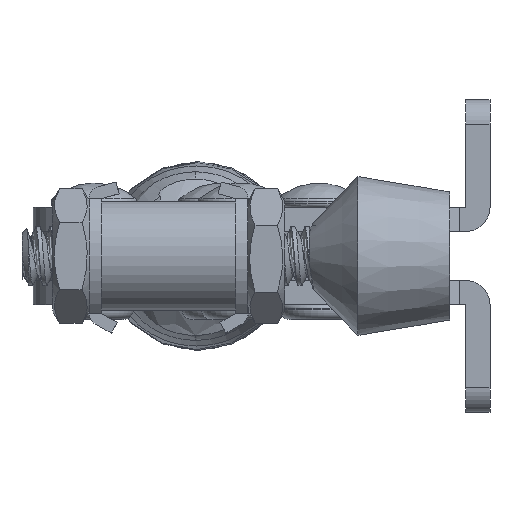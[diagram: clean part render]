
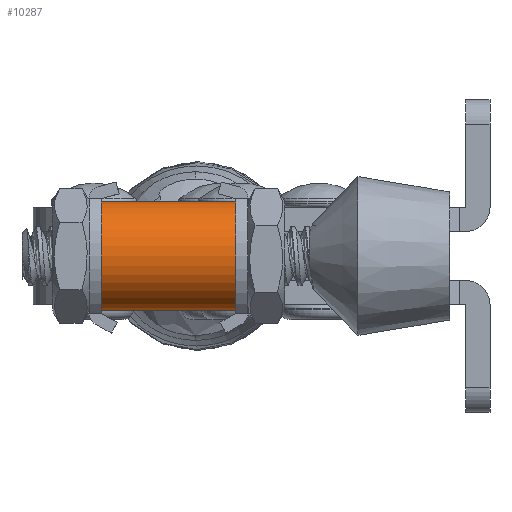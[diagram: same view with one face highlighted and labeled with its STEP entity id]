
A CAD part, left-side view. The second image highlights one B-rep face of the part: STEP entity #10287.
In plain terms, the highlighted cylindrical face has radius 4.5 mm (diameter 9 mm), a partial arc.
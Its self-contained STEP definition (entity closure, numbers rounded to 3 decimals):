
#1567=FACE_OUTER_BOUND('',#2155,.T.);
#2155=EDGE_LOOP('',(#9260,#9261,#9262,#9263));
#2941=LINE('',#33781,#3746);
#2944=LINE('',#33787,#3749);
#3746=VECTOR('',#12783,1000.);
#3749=VECTOR('',#12788,1000.);
#4026=CIRCLE('',#11012,4.5);
#4027=CIRCLE('',#11013,4.5);
#5011=VERTEX_POINT('',#33779);
#5012=VERTEX_POINT('',#33780);
#5013=VERTEX_POINT('',#33785);
#5014=VERTEX_POINT('',#33786);
#6477=EDGE_CURVE('',#5011,#5012,#2941,.T.);
#6480=EDGE_CURVE('',#5013,#5014,#2944,.T.);
#6481=EDGE_CURVE('',#5011,#5014,#4026,.T.);
#6482=EDGE_CURVE('',#5013,#5012,#4027,.T.);
#9260=ORIENTED_EDGE('',*,*,#6480,.T.);
#9261=ORIENTED_EDGE('',*,*,#6481,.F.);
#9262=ORIENTED_EDGE('',*,*,#6477,.T.);
#9263=ORIENTED_EDGE('',*,*,#6482,.F.);
#9792=CYLINDRICAL_SURFACE('',#11011,4.5);
#10287=ADVANCED_FACE('',(#1567),#9792,.T.);
#11011=AXIS2_PLACEMENT_3D('',#33784,#12786,#12787);
#11012=AXIS2_PLACEMENT_3D('',#33788,#12789,#12790);
#11013=AXIS2_PLACEMENT_3D('',#33789,#12791,#12792);
#12783=DIRECTION('',(0.,-1.,0.));
#12786=DIRECTION('center_axis',(0.,-1.,0.));
#12787=DIRECTION('ref_axis',(0.,0.,-1.));
#12788=DIRECTION('',(0.,1.,0.));
#12789=DIRECTION('center_axis',(0.,1.,0.));
#12790=DIRECTION('ref_axis',(0.,0.,-1.));
#12791=DIRECTION('center_axis',(0.,-1.,0.));
#12792=DIRECTION('ref_axis',(0.,0.,-1.));
#33779=CARTESIAN_POINT('',(-42.9,16.35,-4.5));
#33780=CARTESIAN_POINT('',(-42.9,5.35,-4.5));
#33781=CARTESIAN_POINT('',(-42.9,22.,-4.5));
#33784=CARTESIAN_POINT('Origin',(-42.9,22.,0.));
#33785=CARTESIAN_POINT('',(-42.9,5.35,4.5));
#33786=CARTESIAN_POINT('',(-42.9,16.35,4.5));
#33787=CARTESIAN_POINT('',(-42.9,22.,4.5));
#33788=CARTESIAN_POINT('Origin',(-42.9,16.35,0.));
#33789=CARTESIAN_POINT('Origin',(-42.9,5.35,0.));
